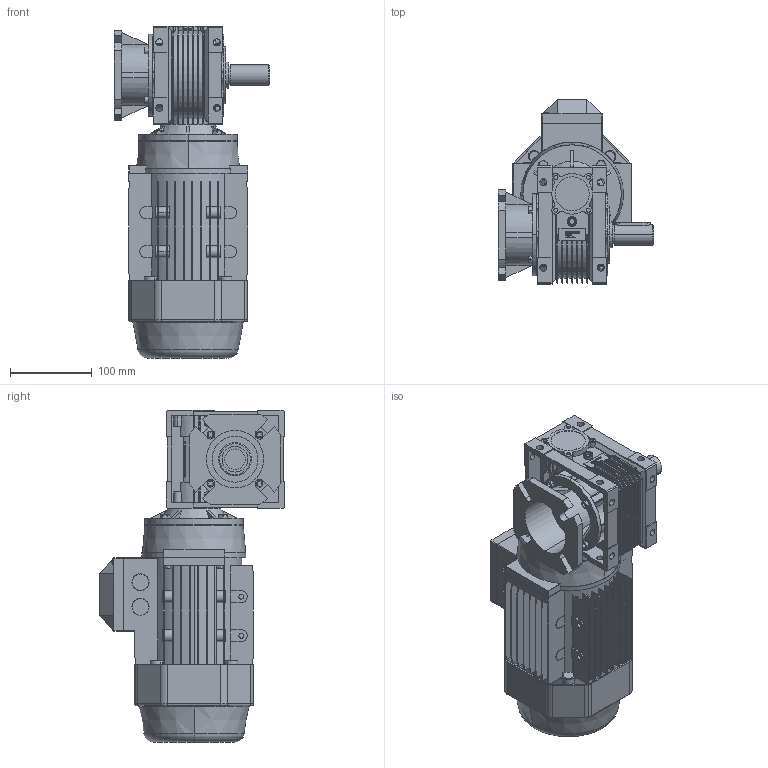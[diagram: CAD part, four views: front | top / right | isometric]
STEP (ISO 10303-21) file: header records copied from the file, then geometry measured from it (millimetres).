
FILE_DESCRIPTION (( 'STEP AP214' ), '1' );
FILE_NAME ('STP_NMRV050_单向输出轴SS1_25_80B14_FA_80_YE3_1_无_输出法兰FA2_无或C1_无或C2_无.step', '2023-06-16T03:35:47', ( 'Windows 用户' ), ( '' ), 'SwSTEP 2.0', 'SolidWorks 2016', '' );
FILE_SCHEMA (( 'AUTOMOTIVE_DESIGN' ));
Length unit declared in the file: millimetre
Products named in the file (3): STP_NMRV050_单向输出轴SS1_25_80B14_FA_80_YE3_1_无_输出法兰FA2_无或C1_无或C2_无_IEC电机_YE3-0.55-4P; STP_NMRV050_单向输出轴SS1_25_80B14_FA_80_YE3_1_无_输出法兰FA2_无或C1_无或C2_无_NMRV_NMRV050; STP_NMRV050_单向输出轴SS1_25_80B14_FA_80_YE3_1_无_输出法兰FA2_无或C1_无或C2_无
Assembly tree (2 placements, depth 2):
  STP_NMRV050_单向输出轴SS1_25_80B14_FA_80_YE3_1_无_输出法兰FA2_无或C1_无或C2_无
    STP_NMRV050_单向输出轴SS1_25_80B14_FA_80_YE3_1_无_输出法兰FA2_无或C1_无或C2_无_NMRV_NMRV050
    STP_NMRV050_单向输出轴SS1_25_80B14_FA_80_YE3_1_无_输出法兰FA2_无或C1_无或C2_无_IEC电机_YE3-0.55-4P
Bounding box: 189.5 x 225 x 405 mm (x, y, z)
Volume: 4773693.8 mm3; surface area: 660394.2 mm2
Topology: 6 solids, 6 shells, 3086 faces, 8141 edges, 5181 vertices
Faces by surface type: plane 1645, cylinder 708, bspline 435, sphere 135, torus 104, cone 59
Entity records: 116805 total; most frequent: CARTESIAN_POINT 40628, ORIENTED_EDGE 16116, DIRECTION 14036, EDGE_CURVE 8058, VERTEX_POINT 5179, VECTOR 5162, LINE 5162, AXIS2_PLACEMENT_3D 4437
